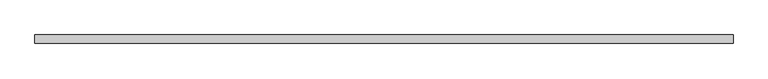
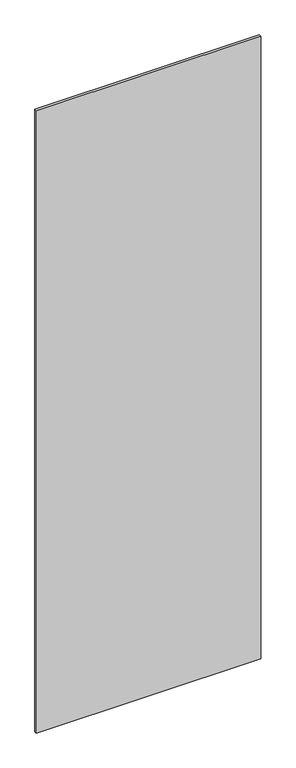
"""IFC4 building model written with IfcOpenShell, lengths in millimetres: plate geometry, VERTI AERO - prosklená výplň : Prosklená výplň."""

from ifc_helpers import new_model, si_unit, origin, origin_with_axes, place, context, project, spatial, polyline, outline, extrude, source, transform, mapped, element, save


def plate_67983703(model_context):
    return source(origin(), model_context, "Body", "SweptSolid", [
        extrude(outline(polyline([(502.5, 6.0), (502.5, -6.0), (-502.5, -6.0), (-502.5, 6.0), (502.5, 6.0)])), origin_with_axes(), (0.0, 0.0, 1.0), 2950.0),
    ])


if __name__ == "__main__":
    model = new_model("IFC4")
    model_context = context("Model", 3, world=origin())
    ifc_project = project(units=[si_unit("LENGTHUNIT", "METRE", prefix="MILLI")], contexts=[model_context])
    site = spatial("IfcSite", under=ifc_project)
    building = spatial("IfcBuilding", under=site)
    placement = place(None, origin())
    plate_shape = plate_67983703(model_context)
    element("IfcPlate", 1, ObjectType="VERTI AERO - prosklená výplň : Prosklená výplň", at=placement, inside=building, context=model_context, shape_type="MappedRepresentation", body=[
        mapped(plate_shape, transform((0.0, 0.0, 0.0), x_axis=(1.0, 0.0, 0.0), y_axis=(0.0, 1.0, 0.0), z_axis=(0.0, 0.0, 1.0))),
    ])
    save(model, "model.ifc")
